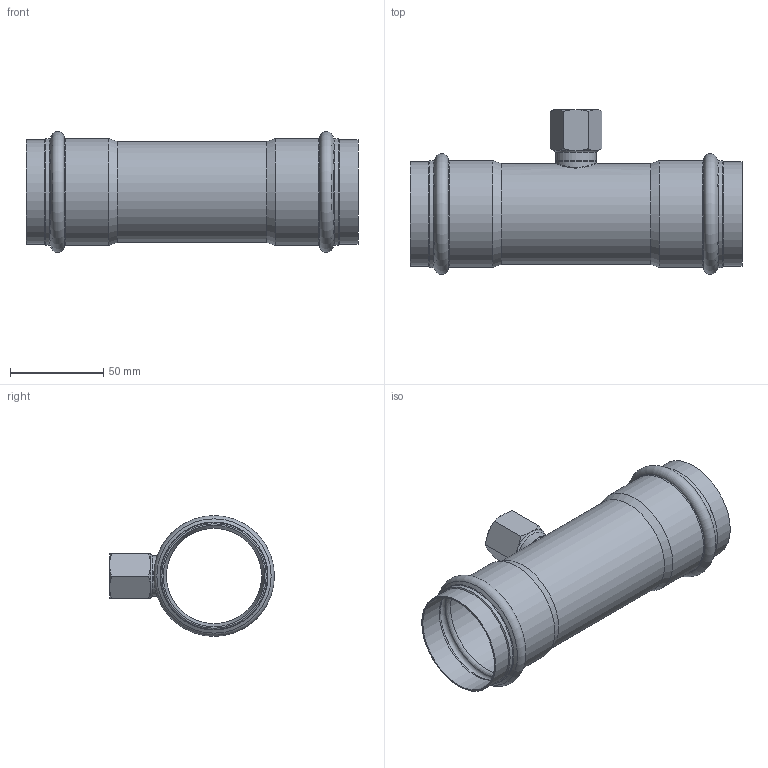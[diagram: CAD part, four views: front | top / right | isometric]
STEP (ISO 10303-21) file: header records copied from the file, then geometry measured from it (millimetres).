
FILE_DESCRIPTION((''),'2;1');
FILE_NAME('G:\Nirosan-Schmiedefeld\Technics\CAD\Bauteile VA\054\69130G541254(2).stp','2010-03-25T08:44:00',('herberg'),(''),'Autodesk Inventor 2009','Autodesk Inventor 2009','');
FILE_SCHEMA(('AUTOMOTIVE_DESIGN { 1 0 10303 214 1 1 1 1 }'));
Length unit declared in the file: millimetre
Products named in the file (3): 69130G541254(2); LM_69130542254(1); IG2212(1)
Assembly tree (2 placements, depth 2):
  69130G541254(2)
    LM_69130542254(1)
    IG2212(1)
Bounding box: 178 x 88.4 x 64.8 mm (x, y, z)
Volume: 50800 mm3; surface area: 68486.4 mm2
Topology: 2 solids, 2 shells, 67 faces, 144 edges, 82 vertices
Faces by surface type: cone 23, cylinder 15, bspline 14, plane 11, torus 4
Full cylindrical faces by diameter (mm): 19 x1, 22 x2, 51 x1, 54 x1, 54.35 x4, 55.95 x2, 57.35 x4
Entity records: 2900 total; most frequent: CARTESIAN_POINT 1690, DIRECTION 238, ORIENTED_EDGE 186, AXIS2_PLACEMENT_3D 116, EDGE_LOOP 116, EDGE_CURVE 93, VERTEX_POINT 73, FACE_OUTER_BOUND 67
